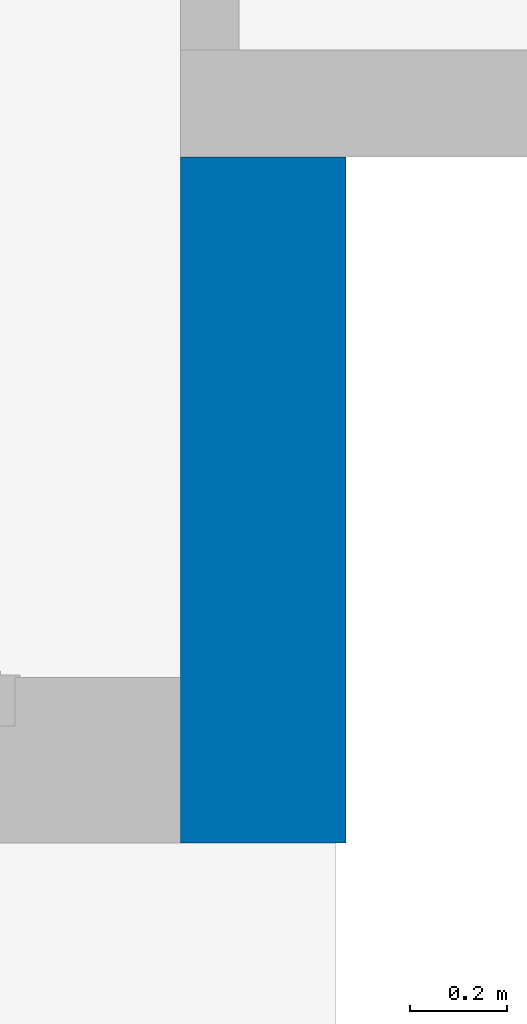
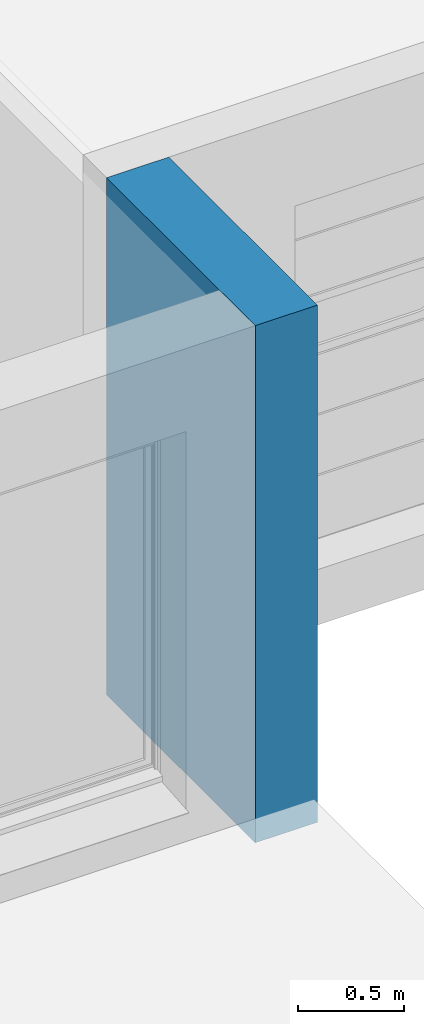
# One storey, part 13 of 23: 1 wall.
"""IFC2X3 building model written with IfcOpenShell, lengths in metres."""

from ifc_helpers import new_model, entity, si_unit, converted_unit, derived_unit, direction, frame, frame_2d, origin, place, context, subcontext, project, spatial, rectangle, extrude, material, layer, layer_set, layer_usage, type_object, element, save


model = new_model("IFC2X3")

# Units and contexts
model_context = context("Model", 3, precision=1e-05, world=origin(), true_north=direction((6.12303176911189e-17, 1.0)))
body_context = subcontext(model_context, "Body", "Model", "MODEL_VIEW")
ifc_project = project(units=[si_unit("LENGTHUNIT", "METRE"), si_unit("AREAUNIT", "SQUARE_METRE"), si_unit("VOLUMEUNIT", "CUBIC_METRE"), converted_unit("PLANEANGLEUNIT", "DEGREE", entity("IfcRatioMeasure", 0.0174532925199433), si_unit("PLANEANGLEUNIT", "RADIAN"), dimensions=[0, 0, 0, 0, 0, 0, 0]), si_unit("MASSUNIT", "GRAM", prefix="KILO"), derived_unit("MASSDENSITYUNIT", [(si_unit("MASSUNIT", "GRAM", prefix="KILO"), 1), (si_unit("LENGTHUNIT", "METRE"), -3)]), si_unit("TIMEUNIT", "SECOND"), si_unit("FREQUENCYUNIT", "HERTZ"), si_unit("THERMODYNAMICTEMPERATUREUNIT", "DEGREE_CELSIUS"), derived_unit("THERMALTRANSMITTANCEUNIT", [(si_unit("MASSUNIT", "GRAM", prefix="KILO"), 1), (si_unit("THERMODYNAMICTEMPERATUREUNIT", "KELVIN"), -1), (si_unit("TIMEUNIT", "SECOND"), -3)]), derived_unit("VOLUMETRICFLOWRATEUNIT", [(si_unit("LENGTHUNIT", "METRE"), 3), (si_unit("TIMEUNIT", "SECOND"), -1)]), si_unit("ELECTRICCURRENTUNIT", "AMPERE"), si_unit("ELECTRICVOLTAGEUNIT", "VOLT"), si_unit("POWERUNIT", "WATT"), si_unit("FORCEUNIT", "NEWTON", prefix="KILO"), si_unit("ILLUMINANCEUNIT", "LUX"), si_unit("LUMINOUSFLUXUNIT", "LUMEN"), si_unit("LUMINOUSINTENSITYUNIT", "CANDELA"), derived_unit("USERDEFINED", [(si_unit("MASSUNIT", "GRAM", prefix="KILO"), -1), (si_unit("LENGTHUNIT", "METRE"), -2), (si_unit("TIMEUNIT", "SECOND"), 3), (si_unit("LUMINOUSFLUXUNIT", "LUMEN"), 1)]), derived_unit("LINEARVELOCITYUNIT", [(si_unit("LENGTHUNIT", "METRE"), 1), (si_unit("TIMEUNIT", "SECOND"), -1)]), si_unit("PRESSUREUNIT", "PASCAL"), derived_unit("USERDEFINED", [(si_unit("LENGTHUNIT", "METRE"), -2), (si_unit("MASSUNIT", "GRAM", prefix="KILO"), 1), (si_unit("TIMEUNIT", "SECOND"), -2)])], contexts=[model_context])

# Site, building, storey
site_placement = place(None, origin())
site = spatial("IfcSite", under=ifc_project, at=site_placement, Name="Default", CompositionType="ELEMENT")
building_placement = place(site_placement, origin())
building = spatial("IfcBuilding", under=site, at=building_placement, CompositionType="ELEMENT")
storey_placement = place(building_placement, origin())
storey = spatial("IfcBuildingStorey", under=building, at=storey_placement, Name="2 - Rez de Chaussée", CompositionType="ELEMENT", Elevation=-1.94916083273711e-14)

# Wall
ifc_material_1 = material(Name="Maçonnerie - Enduit")
ifc_layer_1 = layer(ifc_material_1, 0.02)
ifc_material_2 = material(Name="Blocs béton manufacturés")
ifc_layer_2 = layer(ifc_material_2, 0.2)
ifc_material_3 = material(Name="TIFE, isolation extérieure")
ifc_layer_3 = layer(ifc_material_3, 0.12)
ifc_layer_set = layer_set([ifc_layer_1, ifc_layer_2, ifc_layer_3], Name="Mur de base:Isolant 10+1 vide 1 Parpaing 20 Enduit 2")
ifc_layer_usage = layer_usage(ifc_layer_set, "AXIS2", "NEGATIVE", 0.17)
wall_type = type_object("IfcWallType", Name="Mur de base:Isolant 10+1 vide 1 Parpaing 20 Enduit 2", PredefinedType="STANDARD", material=ifc_layer_set)
wall_placement = place(storey_placement, frame((5.3537775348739, 0.198055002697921, -0.32), z_axis=(0.0, 0.0, 1.0), x_axis=(0.0, -1.0, 0.0)))
element("IfcWallStandardCase", 1, at=wall_placement, inside=storey, type_object=wall_type, material=ifc_layer_usage, Name="Mur de base:Isolant 10+1 vide 1 Parpaing 20 Enduit 2", ObjectType="Mur de base:Isolant 10+1 vide 1 Parpaing 20 Enduit 2", context=body_context, shape_type="SweptSolid", body=[
    extrude(rectangle(XDim=1.41, YDim=0.340000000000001, at=frame_2d((0.705, 0.0), x_axis=(-1.0, 0.0))), origin(), (0.0, 0.0, 1.0), 2.99000000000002),
])

save(model, "model.ifc")
